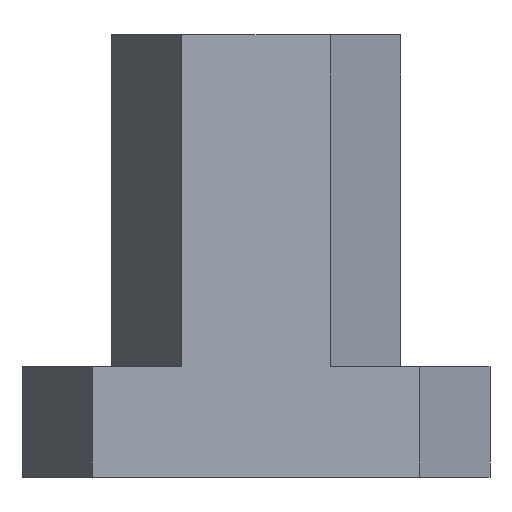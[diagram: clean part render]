
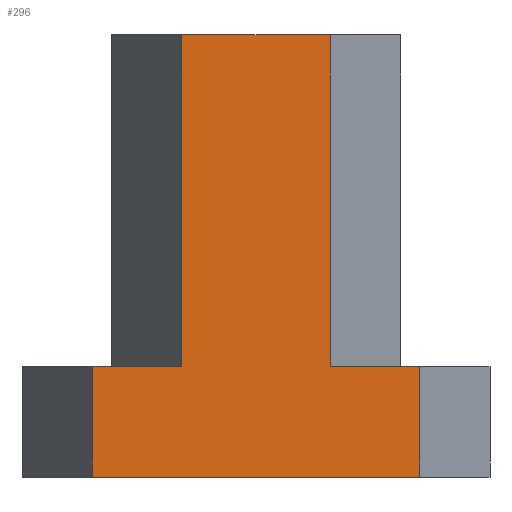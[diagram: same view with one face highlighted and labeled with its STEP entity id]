
A CAD part, left-side view. The second image highlights one B-rep face of the part: STEP entity #296.
In plain terms, the highlighted planar face has unit normal (-1, 0, 0).
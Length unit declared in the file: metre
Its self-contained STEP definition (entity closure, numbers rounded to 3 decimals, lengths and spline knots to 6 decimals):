
#85=ORIENTED_EDGE('',*,*,#102,.T.);
#86=ORIENTED_EDGE('',*,*,#113,.T.);
#87=ORIENTED_EDGE('',*,*,#120,.F.);
#88=ORIENTED_EDGE('',*,*,#116,.T.);
#89=ORIENTED_EDGE('',*,*,#107,.T.);
#90=ORIENTED_EDGE('',*,*,#93,.T.);
#91=ORIENTED_EDGE('',*,*,#98,.F.);
#92=ORIENTED_EDGE('',*,*,#127,.F.);
#93=EDGE_CURVE('',#131,#132,#158,.T.);
#98=EDGE_CURVE('',#136,#132,#163,.T.);
#102=EDGE_CURVE('',#139,#140,#167,.T.);
#107=EDGE_CURVE('',#144,#131,#172,.T.);
#113=EDGE_CURVE('',#140,#149,#178,.T.);
#116=EDGE_CURVE('',#151,#144,#181,.T.);
#120=EDGE_CURVE('',#151,#149,#184,.T.);
#127=EDGE_CURVE('',#139,#136,#191,.T.);
#131=VERTEX_POINT('',#405);
#132=VERTEX_POINT('',#406);
#136=VERTEX_POINT('',#415);
#139=VERTEX_POINT('',#424);
#140=VERTEX_POINT('',#425);
#144=VERTEX_POINT('',#434);
#149=VERTEX_POINT('',#446);
#151=VERTEX_POINT('',#452);
#158=LINE('',#404,#194);
#163=LINE('',#416,#199);
#167=LINE('',#423,#203);
#172=LINE('',#433,#208);
#178=LINE('',#445,#214);
#181=LINE('',#451,#217);
#184=LINE('',#459,#220);
#191=LINE('',#471,#227);
#194=VECTOR('',#332,1.);
#199=VECTOR('',#339,1.);
#203=VECTOR('',#345,1.);
#208=VECTOR('',#350,1.);
#214=VECTOR('',#358,1.);
#217=VECTOR('',#363,1.);
#220=VECTOR('',#370,1.);
#227=VECTOR('',#383,1.);
#247=EDGE_LOOP('',(#85,#86,#87,#88,#89,#90,#91,#92));
#266=FACE_BOUND('',#247,.T.);
#280=PLANE('',#327);
#296=ADVANCED_FACE('',(#266),#280,.T.);
#327=AXIS2_PLACEMENT_3D('',#483,#400,#401);
#332=DIRECTION('',(0.,0.,-1.));
#339=DIRECTION('',(0.,1.,0.));
#345=DIRECTION('',(0.,1.,0.));
#350=DIRECTION('',(0.,1.,0.));
#358=DIRECTION('',(0.,0.,1.));
#363=DIRECTION('',(0.,0.,-1.));
#370=DIRECTION('',(0.,-1.,0.));
#383=DIRECTION('',(0.,0.,-1.));
#400=DIRECTION('',(-1.,0.,0.));
#401=DIRECTION('',(0.,0.,1.));
#404=CARTESIAN_POINT('',(0.1152,-0.003554,0.013));
#405=CARTESIAN_POINT('',(0.1152,-0.003554,-0.009));
#406=CARTESIAN_POINT('',(0.1152,-0.003554,-0.012));
#415=CARTESIAN_POINT('',(0.1152,-0.012446,-0.012));
#416=CARTESIAN_POINT('',(0.1152,-0.008,-0.012));
#423=CARTESIAN_POINT('',(0.1152,-0.1255,-0.009));
#424=CARTESIAN_POINT('',(0.1152,-0.012446,-0.009));
#425=CARTESIAN_POINT('',(0.1152,-0.010021,-0.009));
#433=CARTESIAN_POINT('',(0.1152,-0.1255,-0.009));
#434=CARTESIAN_POINT('',(0.1152,-0.005979,-0.009));
#445=CARTESIAN_POINT('',(0.1152,-0.010021,0.000002));
#446=CARTESIAN_POINT('',(0.1152,-0.010021,0.));
#451=CARTESIAN_POINT('',(0.1152,-0.005979,0.000002));
#452=CARTESIAN_POINT('',(0.1152,-0.005979,0.));
#459=CARTESIAN_POINT('',(0.1152,-0.0265,0.));
#471=CARTESIAN_POINT('',(0.1152,-0.012446,0.013));
#483=CARTESIAN_POINT('',(0.1152,-0.008,0.013));
